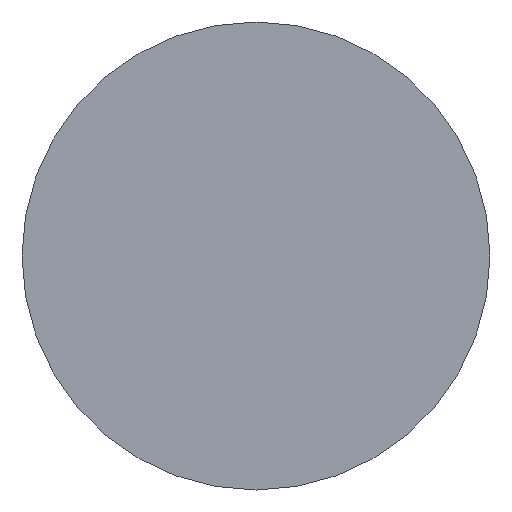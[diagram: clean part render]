
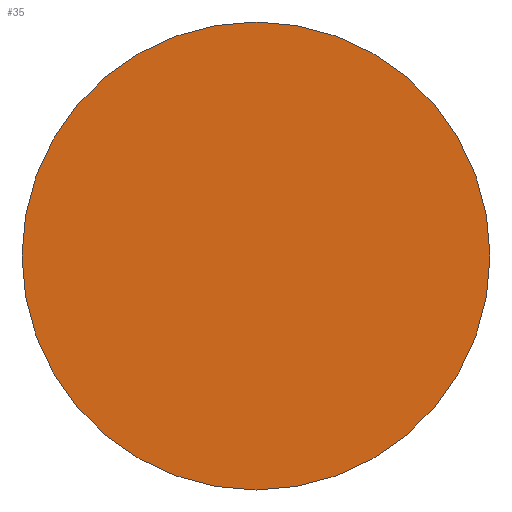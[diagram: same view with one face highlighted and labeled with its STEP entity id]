
A CAD part, front view. The second image highlights one B-rep face of the part: STEP entity #35.
In plain terms, the highlighted planar face has unit normal (0, -1, 0).
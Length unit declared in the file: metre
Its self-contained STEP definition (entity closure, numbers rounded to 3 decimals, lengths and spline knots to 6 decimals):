
#13=PLANE('',#53);
#17=ORIENTED_EDGE('',*,*,#19,.F.);
#19=EDGE_CURVE('',#21,#21,#23,.T.);
#21=VERTEX_POINT('',#71);
#23=CIRCLE('',#51,0.0044);
#27=EDGE_LOOP('',(#17));
#31=FACE_BOUND('',#27,.T.);
#35=ADVANCED_FACE('',(#31),#13,.F.);
#51=AXIS2_PLACEMENT_3D('',#70,#60,#61);
#53=AXIS2_PLACEMENT_3D('',#73,#64,#65);
#60=DIRECTION('',(0.,1.,0.));
#61=DIRECTION('',(0.,0.,1.));
#64=DIRECTION('',(0.,1.,0.));
#65=DIRECTION('',(-1.,0.,0.));
#70=CARTESIAN_POINT('',(0.017708,0.039785,0.006863));
#71=CARTESIAN_POINT('',(0.017708,0.039785,0.011263));
#73=CARTESIAN_POINT('',(0.017708,0.039785,0.006863));
